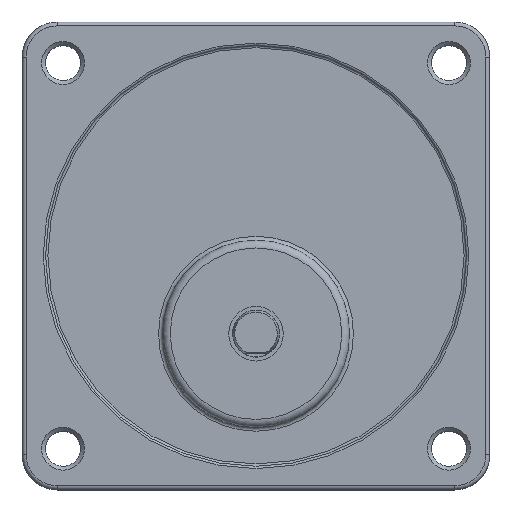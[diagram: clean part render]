
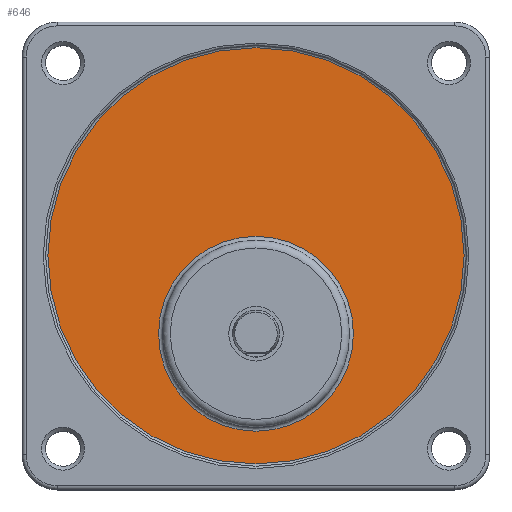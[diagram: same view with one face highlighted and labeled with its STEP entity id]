
A CAD part, top view. The second image highlights one B-rep face of the part: STEP entity #646.
In plain terms, the highlighted planar face has unit normal (0, 0, 1).
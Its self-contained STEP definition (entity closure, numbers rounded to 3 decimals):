
#595=CARTESIAN_POINT('',(42.5,20.0,25.2));
#596=VERTEX_POINT('',#595);
#597=CARTESIAN_POINT('',(30.,20.0,25.2));
#598=DIRECTION('',(0.0,0.0,1.0));
#599=DIRECTION('',(-1.0,0.0,0.0));
#600=AXIS2_PLACEMENT_3D('',#597,#598,#599);
#601=CIRCLE('',#600,12.5);
#602=EDGE_CURVE('',#596,#596,#601,.T.);
#627=CARTESIAN_POINT('',(30.,30.0,25.2));
#628=DIRECTION('',(0.0,0.0,-1.0));
#629=DIRECTION('',(-1.0,0.0,0.0));
#630=AXIS2_PLACEMENT_3D('',#627,#628,#629);
#631=PLANE('',#630);
#632=CARTESIAN_POINT('',(56.699,30.,25.2));
#633=VERTEX_POINT('',#632);
#634=CARTESIAN_POINT('',(30.,30.0,25.2));
#635=DIRECTION('',(0.0,0.0,-1.0));
#636=DIRECTION('',(-1.0,0.0,0.0));
#637=AXIS2_PLACEMENT_3D('',#634,#635,#636);
#638=CIRCLE('',#637,26.699);
#639=EDGE_CURVE('',#633,#633,#638,.T.);
#640=ORIENTED_EDGE('',*,*,#639,.F.);
#641=EDGE_LOOP('',(#640));
#642=FACE_OUTER_BOUND('',#641,.T.);
#643=ORIENTED_EDGE('',*,*,#602,.F.);
#644=EDGE_LOOP('',(#643));
#645=FACE_BOUND('',#644,.T.);
#646=ADVANCED_FACE('',(#642,#645),#631,.F.);
